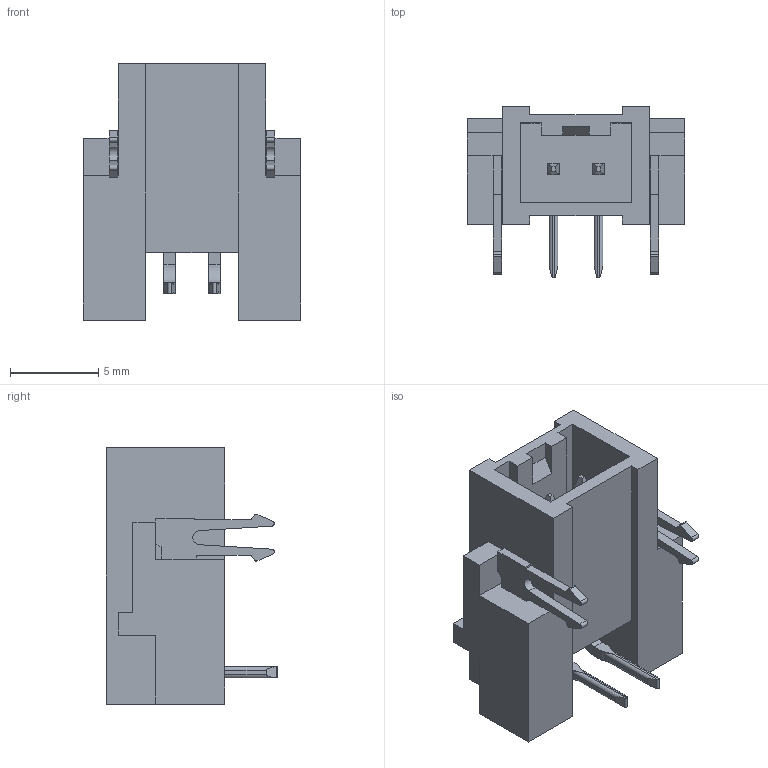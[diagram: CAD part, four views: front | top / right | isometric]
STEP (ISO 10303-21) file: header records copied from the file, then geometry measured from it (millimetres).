
FILE_DESCRIPTION (( 'STEP AP203' ), '1' );
FILE_NAME ('232D-02P1X2-L15A-FA.STEP', '2022-02-08T05:49:14', ( '' ), ( '' ), 'SwSTEP 2.0', 'SolidWorks 2018', '' );
FILE_SCHEMA (( 'CONFIG_CONTROL_DESIGN' ));
Length unit declared in the file: millimetre
Products named in the file (1): 232D-02P1X2-L15A-FA
Bounding box: 12.32 x 9.7 x 14.5 mm (x, y, z)
Volume: 593.9 mm3; surface area: 965.3 mm2
Topology: 1 solids, 1 shells, 167 faces, 488 edges, 324 vertices
Faces by surface type: plane 131, cylinder 36
Entity records: 5605 total; most frequent: CARTESIAN_POINT 1148, ORIENTED_EDGE 976, DIRECTION 834, EDGE_CURVE 488, VECTOR 398, LINE 398, VERTEX_POINT 324, AXIS2_PLACEMENT_3D 218
